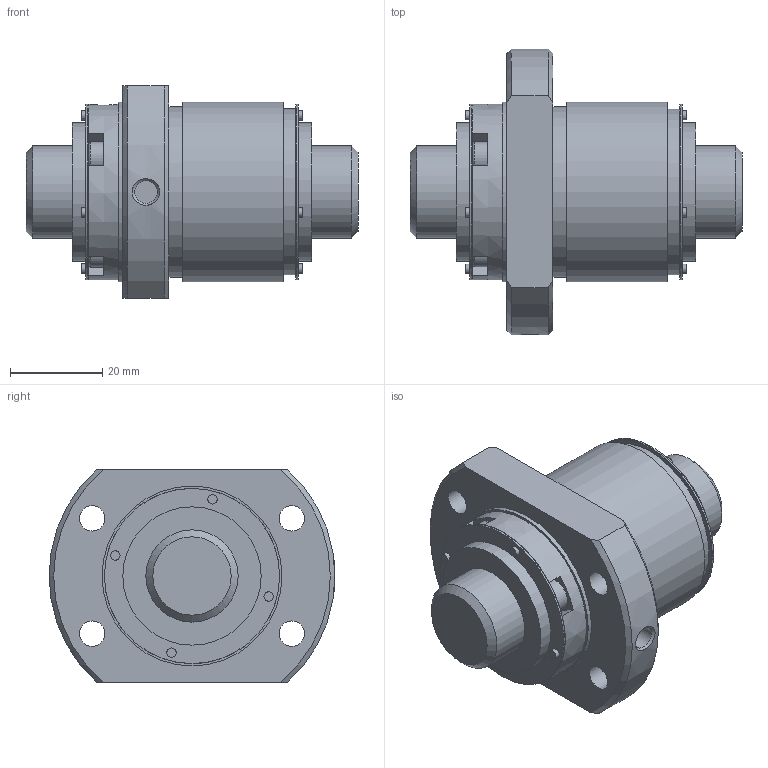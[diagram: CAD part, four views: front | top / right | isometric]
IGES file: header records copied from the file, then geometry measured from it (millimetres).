
Start section: Data from Parasolid IGES Translator 26.0.171, Copyright(c) 2006 Siemens PLM Software. All Rights Reserved.
Global section: file name: BLK2020-3.6ZZG1+72LC3_0_1300.igs; native system: By Siemens PLM Incorporated; preprocessor: XPlus GENERIC/IGES 26.0.171; author: Noname; organization: Noname; date: 20250116.070442; units: millimetre
Bounding box: 72 x 62 x 46 mm (x, y, z)
Surface area: 21792 mm2 (no closed solid volume)
Topology: 0 solids, 0 shells, 156 faces, 704 edges, 633 vertices
Faces by surface type: extrusion 95, revolution 61
